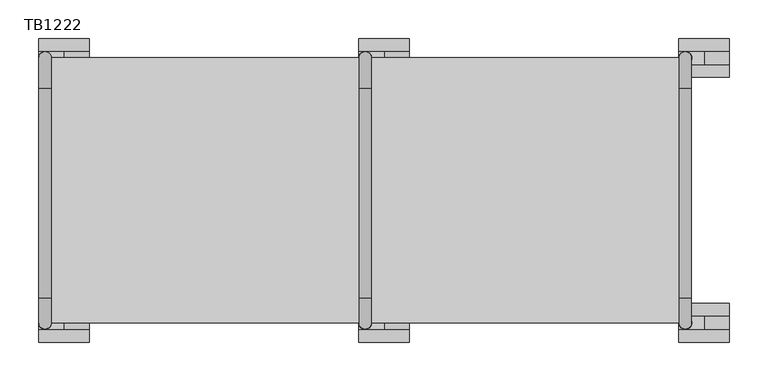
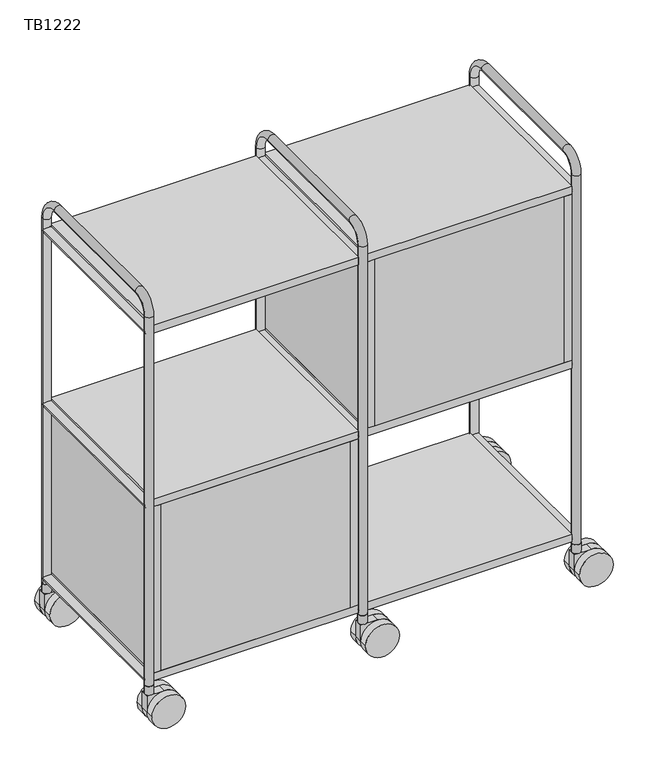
"""IFC4 building model written with IfcOpenShell, lengths in millimetres: furniture geometry, Tubbe Bookcase_Mobile Modular Bookcase : TB1222."""

import ifcopenshell
import ifcopenshell.guid

model = None  # the IFC model being written
_history = None  # IfcOwnerHistory: only IFC2X3 demands one
_inside = {}  # id of a spatial element -> (the spatial element, [elements in it])
_under = {}  # id of a project, library or spatial element -> (it, [spatial elements below it])
_declared = {}  # id of a project -> (the project, [libraries it declares])
_typed = {}  # id of a type object -> (the type object, [elements of that type])
_made_of = {}  # id of a material, layer set ... -> (it, [elements and type objects made of it])


def new_model(schema):
    """Start an empty IFC model of exactly this schema.

    Asked for "IFC4X3", IfcOpenShell would pick the latest addendum, in which some entities
    have other attributes; the version numbers below select the first issue.
    IFC2X3 requires an IfcOwnerHistory on every rooted entity: one is made here for all.
    """
    global model, _history
    if schema == "IFC4X3":
        model = ifcopenshell.file(schema_version=(4, 3, 0, 0))
    else:
        model = ifcopenshell.file(schema=schema)
    _inside.clear()
    _under.clear()
    _declared.clear()
    _typed.clear()
    _made_of.clear()
    _history = None
    if model.schema == "IFC2X3":
        org = make("IfcOrganization", Name="unknown")
        user = make(
            "IfcPersonAndOrganization",
            ThePerson=make("IfcPerson", FamilyName="unknown"),
            TheOrganization=org,
        )
        app = make(
            "IfcApplication",
            ApplicationDeveloper=org,
            Version="unknown",
            ApplicationFullName="unknown",
            ApplicationIdentifier="unknown",
        )
        _history = make(
            "IfcOwnerHistory",
            OwningUser=user,
            OwningApplication=app,
            ChangeAction="ADDED",
            CreationDate=0,
        )
    return model


def make(cls, **values):
    """One entity of the class cls with the attributes given. An attribute that is None is left unset."""
    return model.create_entity(
        cls, **{name: value for name, value in values.items() if value is not None}
    )


def rooted(cls, **values):
    """An entity with a GlobalId (a new one), such as an element, a storey or a relation."""
    return make(cls, GlobalId=ifcopenshell.guid.new(), OwnerHistory=_history, **values)


def si_unit(unit_type, name, prefix=None):
    """IfcSIUnit, for example si_unit("LENGTHUNIT", "METRE", prefix="MILLI")."""
    return make("IfcSIUnit", UnitType=unit_type, Prefix=prefix, Name=name)


def assignment(units):
    """IfcUnitAssignment: the units of a project."""
    return None if units is None else make("IfcUnitAssignment", Units=units)


def point(xyz):
    """IfcCartesianPoint."""
    return None if xyz is None else make("IfcCartesianPoint", Coordinates=xyz)


def direction(xyz):
    """IfcDirection."""
    return None if xyz is None else make("IfcDirection", DirectionRatios=xyz)


def frame(location, z_axis=None, x_axis=None):
    """IfcAxis2Placement3D, a coordinate frame: its origin and axes. An axis left out is left unset."""
    return make(
        "IfcAxis2Placement3D",
        Location=point(location),
        Axis=direction(z_axis),
        RefDirection=direction(x_axis),
    )


def frame_2d(location, x_axis=None):
    """IfcAxis2Placement2D, a coordinate frame in the plane: its origin and x axis."""
    return make(
        "IfcAxis2Placement2D", Location=point(location), RefDirection=direction(x_axis)
    )


def origin():
    """The frame at (0, 0, 0) with its axes left unset."""
    return frame((0.0, 0.0, 0.0))


def place(relative_to, where):
    """IfcLocalPlacement: puts the frame where relative to a parent placement (None: the world)."""
    return make(
        "IfcLocalPlacement", PlacementRelTo=relative_to, RelativePlacement=where
    )


def context(
    kind, dimensions, precision=None, world=None, true_north=None, identifier=None
):
    """IfcGeometricRepresentationContext, for example the 3D "Model" context."""
    return make(
        "IfcGeometricRepresentationContext",
        ContextIdentifier=identifier,
        ContextType=kind,
        CoordinateSpaceDimension=dimensions,
        Precision=precision,
        WorldCoordinateSystem=world,
        TrueNorth=true_north,
    )


def project(units=None, contexts=None):
    """IfcProject with its units and contexts."""
    return rooted(
        "IfcProject",
        Name="project",
        RepresentationContexts=contexts,
        UnitsInContext=assignment(units),
    )


def spatial(cls, under=None, at=None, **own):
    """A site, building, storey or space (cls), placed at a placement, below another one or the project."""
    s = rooted(cls, ObjectPlacement=at, **own)
    if under is not None:
        _under.setdefault(under.id(), (under, []))[1].append(s)
    return s


def polyline(points):
    """IfcPolyline through the points."""
    return make("IfcPolyline", Points=[point(p) for p in points])


def circle_curve(where, radius):
    """IfcCircle in the frame where."""
    return make("IfcCircle", Position=where, Radius=radius)


def ellipse_curve(where, semi_axis1, semi_axis2):
    """IfcEllipse in the frame where."""
    return make(
        "IfcEllipse", Position=where, SemiAxis1=semi_axis1, SemiAxis2=semi_axis2
    )


def trimmed(basis, trim1, trim2, sense, master):
    """IfcTrimmedCurve: the piece of a basis curve between two trims."""
    return make(
        "IfcTrimmedCurve",
        BasisCurve=basis,
        Trim1=trim1,
        Trim2=trim2,
        SenseAgreement=sense,
        MasterRepresentation=master,
    )


def segment(curve, same_sense, transition):
    """IfcCompositeCurveSegment."""
    return make(
        "IfcCompositeCurveSegment",
        Transition=transition,
        SameSense=same_sense,
        ParentCurve=curve,
    )


def composite_curve(segments, self_intersect=None):
    """IfcCompositeCurve: segments joined end to end."""
    return make("IfcCompositeCurve", Segments=segments, SelfIntersect=self_intersect)


def outline(outer, holes=None, kind="AREA"):
    """IfcArbitraryClosedProfileDef: a profile drawn as a closed curve; with holes, ...WithVoids."""
    if holes is None:
        return make("IfcArbitraryClosedProfileDef", ProfileType=kind, OuterCurve=outer)
    return make(
        "IfcArbitraryProfileDefWithVoids",
        ProfileType=kind,
        OuterCurve=outer,
        InnerCurves=holes,
    )


def extrude(swept, where, along, depth):
    """IfcExtrudedAreaSolid: the profile swept, set in the frame where, extruded along a direction by depth."""
    return make(
        "IfcExtrudedAreaSolid",
        SweptArea=swept,
        Position=where,
        ExtrudedDirection=direction(along),
        Depth=depth,
    )


def shape(context_of_items, identifier, shape_type, items):
    """IfcShapeRepresentation: the items that make up one representation, for example the "Body"."""
    return make(
        "IfcShapeRepresentation",
        ContextOfItems=context_of_items,
        RepresentationIdentifier=identifier,
        RepresentationType=shape_type,
        Items=items,
    )


def source(mapping_origin, context_of_items, identifier, shape_type, items):
    """IfcRepresentationMap: a shape defined once, which mapped items show again and again."""
    return make(
        "IfcRepresentationMap",
        MappingOrigin=mapping_origin,
        MappedRepresentation=shape(context_of_items, identifier, shape_type, items),
    )


def transform(
    local_origin,
    x_axis=None,
    y_axis=None,
    z_axis=None,
    scale=None,
    scale2=None,
    scale3=None,
    uniform=True,
):
    """IfcCartesianTransformationOperator3D, or its non-uniform kind. x_axis, y_axis, z_axis: its Axis1, 2, 3."""
    if uniform:
        return make(
            "IfcCartesianTransformationOperator3D",
            Axis1=direction(x_axis),
            Axis2=direction(y_axis),
            LocalOrigin=point(local_origin),
            Scale=scale,
            Axis3=direction(z_axis),
        )
    return make(
        "IfcCartesianTransformationOperator3DnonUniform",
        Axis1=direction(x_axis),
        Axis2=direction(y_axis),
        LocalOrigin=point(local_origin),
        Scale=scale,
        Axis3=direction(z_axis),
        Scale2=scale2,
        Scale3=scale3,
    )


def mapped(mapping_source, mapping_target):
    """IfcMappedItem: shows the shape of a source again, moved by a transform."""
    return make(
        "IfcMappedItem", MappingSource=mapping_source, MappingTarget=mapping_target
    )


def made_of(thing, what):
    """Note that an element or type object is made of a material, layer set ...; save() writes the relation."""
    if what is not None:
        _made_of.setdefault(what.id(), (what, []))[1].append(thing)
    return thing


def element(
    cls,
    number,
    at=None,
    inside=None,
    cuts=None,
    type_object=None,
    material=None,
    context=None,
    identifier="Body",
    shape_type=None,
    held_by="IfcProductDefinitionShape",
    body=None,
    shapes=None,
    **own,
):
    """One element of the class cls, such as IfcWall. Its Tag is "e" and its number.

    at: its placement. inside: the storey or other place that contains it. cuts: it is an
    opening in that element (IfcRelVoidsElement). A single representation is given by context,
    identifier, shape_type and body (its items); several are given by shapes. held_by: the class
    of the entity that holds the representations. save() writes the other relations.
    """
    e = rooted(cls, Tag="e%d" % number, ObjectPlacement=at, **own)
    if body is not None:
        shapes = [shape(context, identifier, shape_type, body)]
    if shapes is not None:
        e.Representation = make(held_by, Representations=shapes)
    if inside is not None:
        _inside.setdefault(inside.id(), (inside, []))[1].append(e)
    if cuts is not None:
        rooted(
            "IfcRelVoidsElement", RelatingBuildingElement=cuts, RelatedOpeningElement=e
        )
    if type_object is not None:
        _typed.setdefault(type_object.id(), (type_object, []))[1].append(e)
    return made_of(e, material)


def aggregate(whole, parts):
    """IfcRelAggregates: a whole, such as a stair, and the parts it consists of."""
    return rooted("IfcRelAggregates", RelatingObject=whole, RelatedObjects=parts)


def save(model, path):
    """Write the relations noted so far, then the file.

    IfcRelAggregates (storeys below a building ...), IfcRelContainedInSpatialStructure (elements
    in a storey), IfcRelDefinesByType, IfcRelAssociatesMaterial and IfcRelDeclares: one each for
    every whole, place, type object, material and project.
    """
    for whole, parts in _under.values():
        aggregate(whole, parts)
    for where, things in _inside.values():
        rooted(
            "IfcRelContainedInSpatialStructure",
            RelatedElements=things,
            RelatingStructure=where,
        )
    for kind, things in _typed.values():
        rooted("IfcRelDefinesByType", RelatedObjects=things, RelatingType=kind)
    for what, things in _made_of.values():
        rooted("IfcRelAssociatesMaterial", RelatedObjects=things, RelatingMaterial=what)
    for by, libraries in _declared.values():
        rooted("IfcRelDeclares", RelatingContext=by, RelatedDefinitions=libraries)
    model.write(path)


def plane_surface(at):
    """IfcPlane: the flat surface through the origin of the frame at, square to its z axis."""
    return make("IfcPlane", Position=at)


def cylinder_surface(at, radius):
    """IfcCylindricalSurface: all points at the distance radius from the z axis of the frame at."""
    return make("IfcCylindricalSurface", Position=at, Radius=radius)


def revolved_surface(curve, axis_point, axis_direction):
    """IfcSurfaceOfRevolution: the curve turned about the line through axis_point along axis_direction."""
    return make(
        "IfcSurfaceOfRevolution",
        SweptCurve=make("IfcArbitraryOpenProfileDef", ProfileType="CURVE", Curve=curve),
        AxisPosition=make("IfcAxis1Placement", Location=point(axis_point), Axis=direction(axis_direction)),
    )


def advanced_brep(points, edges, surfaces, faces):
    """IfcAdvancedBrep: a solid bounded by faces that lie on surfaces and meet in shared edges.

    An edge is (start, end): straight between two places in points (the first is 0);
    or (start, end, curve); or (start, end, curve, False) where it runs against its curve.
    A face is (place in surfaces, loops), or (place, loops, False) where it looks against
    its surface's normal. A loop lists edges by number (the first is 1), with a minus sign
    where the edge is run from its end to its start. The first loop is the outer one.
    """
    corners = [point(p) for p in points]
    vertices = [make("IfcVertexPoint", VertexGeometry=c) for c in corners]
    made = []
    for start, end, *more in edges:
        made.append(
            make(
                "IfcEdgeCurve",
                EdgeStart=vertices[start],
                EdgeEnd=vertices[end],
                EdgeGeometry=more[0] if more else make("IfcPolyline", Points=[corners[start], corners[end]]),
                SameSense=more[1] if len(more) > 1 else True,
            )
        )
    hull = []
    for where, loops, *sense in faces:
        bounds = []
        for j, loop in enumerate(loops):
            ring = [make("IfcOrientedEdge", EdgeElement=made[abs(k) - 1], Orientation=k > 0) for k in loop]
            bounds.append(
                make(
                    "IfcFaceOuterBound" if j == 0 else "IfcFaceBound",
                    Bound=make("IfcEdgeLoop", EdgeList=ring),
                    Orientation=True,
                )
            )
        hull.append(make("IfcAdvancedFace", Bounds=bounds, FaceSurface=surfaces[where], SameSense=sense[0] if sense else True))
    return make("IfcAdvancedBrep", Outer=make("IfcClosedShell", CfsFaces=hull))


def tb1222_59ea8ce8(model_context):
    return source(origin(), model_context, "Body", "SolidModel", [
        extrude(outline(polyline([(390.0, -171.5), (24.0, -171.5), (24.0, -155.5), (390.0, -155.5), (390.0, -171.5)])), frame((0.0, 0.0, 458.0), z_axis=(0.0, 0.0, 1.0), x_axis=(1.0, 0.0, 0.0)), (0.0, 0.0, 1.0), 340.0),
        extrude(outline(polyline([(390.0, 155.5), (24.0, 155.5), (24.0, 171.5), (390.0, 171.5), (390.0, 155.5)])), frame((0.0, 0.0, 458.0), z_axis=(0.0, 0.0, 1.0), x_axis=(1.0, 0.0, 0.0)), (0.0, 0.0, 1.0), 340.0),
        extrude(outline(polyline([(406.0, 171.5), (406.0, -171.5), (390.0, -171.5), (390.0, 171.5), (406.0, 171.5)])), frame((0.0, 0.0, 458.0), z_axis=(0.0, 0.0, 1.0), x_axis=(1.0, 0.0, 0.0)), (0.0, 0.0, 1.0), 340.0),
        extrude(outline(polyline([(24.0, 171.5), (24.0, -171.5), (8.0, -171.5), (8.0, 171.5), (24.0, 171.5)])), frame((0.0, 0.0, 458.0), z_axis=(0.0, 0.0, 1.0), x_axis=(1.0, 0.0, 0.0)), (0.0, 0.0, 1.0), 340.0),
        extrude(outline(polyline([(-24.0, -171.5), (-390.0, -171.5), (-390.0, -155.5), (-24.0, -155.5), (-24.0, -171.5)])), frame((0.0, 0.0, 102.0), z_axis=(0.0, 0.0, 1.0), x_axis=(1.0, 0.0, 0.0)), (0.0, 0.0, 1.0), 340.0),
        extrude(outline(polyline([(-24.0, 155.5), (-390.0, 155.5), (-390.0, 171.5), (-24.0, 171.5), (-24.0, 155.5)])), frame((0.0, 0.0, 102.0), z_axis=(0.0, 0.0, 1.0), x_axis=(1.0, 0.0, 0.0)), (0.0, 0.0, 1.0), 340.0),
        extrude(outline(polyline([(-8.0, 171.5), (-8.0, -171.5), (-24.0, -171.5), (-24.0, 171.5), (-8.0, 171.5)])), frame((0.0, 0.0, 102.0), z_axis=(0.0, 0.0, 1.0), x_axis=(1.0, 0.0, 0.0)), (0.0, 0.0, 1.0), 340.0),
        extrude(outline(polyline([(-390.0, 171.5), (-390.0, -171.5), (-406.0, -171.5), (-406.0, 171.5), (-390.0, 171.5)])), frame((0.0, 0.0, 102.0), z_axis=(0.0, 0.0, 1.0), x_axis=(1.0, 0.0, 0.0)), (0.0, 0.0, 1.0), 340.0),
        extrude(outline(polyline([(406.0, 171.5), (406.0, -171.5), (8.0, -171.5), (8.0, 171.5), (406.0, 171.5)])), frame((0.0, 0.0, 798.0), z_axis=(0.0, 0.0, 1.0), x_axis=(1.0, 0.0, 0.0)), (0.0, 0.0, 1.0), 16.0),
        extrude(outline(polyline([(406.0, 171.5), (406.0, -171.5), (8.0, -171.5), (8.0, 171.5), (406.0, 171.5)])), frame((0.0, 0.0, 442.0), z_axis=(0.0, 0.0, 1.0), x_axis=(1.0, 0.0, 0.0)), (0.0, 0.0, 1.0), 16.0),
        extrude(outline(polyline([(-8.0, 171.5), (-8.0, -171.5), (-406.0, -171.5), (-406.0, 171.5), (-8.0, 171.5)])), frame((0.0, 0.0, 442.0), z_axis=(0.0, 0.0, 1.0), x_axis=(1.0, 0.0, 0.0)), (0.0, 0.0, 1.0), 16.0),
        extrude(outline(polyline([(-8.0, 171.5), (-8.0, -171.5), (-406.0, -171.5), (-406.0, 171.5), (-8.0, 171.5)])), frame((0.0, 0.0, 86.0), z_axis=(0.0, 0.0, 1.0), x_axis=(1.0, 0.0, 0.0)), (0.0, 0.0, 1.0), 16.0),
        extrude(outline(polyline([(406.0, 171.5), (406.0, -171.5), (8.0, -171.5), (8.0, 171.5), (406.0, 171.5)])), frame((0.0, 0.0, 86.0), z_axis=(0.0, 0.0, 1.0), x_axis=(1.0, 0.0, 0.0)), (0.0, 0.0, 1.0), 16.0),
        extrude(outline(polyline([(-8.0, 171.5), (-8.0, -171.5), (-406.0, -171.5), (-406.0, 171.5), (-8.0, 171.5)])), frame((0.0, 0.0, 798.0), z_axis=(0.0, 0.0, 1.0), x_axis=(1.0, 0.0, 0.0)), (0.0, 0.0, 1.0), 16.0),
        extrude(outline(composite_curve([segment(trimmed(circle_curve(frame_2d((414.0, -171.5)), 8.3333333), [point((405.6666667, -171.5))], [point((422.3333333, -171.5))], False, "CARTESIAN"), True, "CONTINUOUS"), segment(trimmed(circle_curve(frame_2d((414.0, -171.5)), 8.3333333), [point((422.3333333, -171.5))], [point((405.6666667, -171.5))], False, "CARTESIAN"), True, "CONTINUOUS")], self_intersect=False)), frame((0.0, 0.0, 65.3), z_axis=(0.0, 0.0, 1.0), x_axis=(1.0, 0.0, 0.0)), (0.0, 0.0, 1.0), 17.6),
        extrude(outline(composite_curve([segment(polyline([(65.3, 438.32), (65.3, 405.67), (32.65, 405.67), (32.65, 470.97)]), True, "CONTINUOUS"), segment(trimmed(circle_curve(frame_2d((32.65, 438.32)), 32.65), [point((32.65, 470.97))], [point((65.3, 438.32))], False, "CARTESIAN"), True, "CONTINUOUS")], self_intersect=False)), frame((0.0, -179.8333333, 0.0), z_axis=(0.0, 1.0, 0.0), x_axis=(0.0, 0.0, 1.0)), (0.0, 0.0, 1.0), 16.6666667),
        extrude(outline(composite_curve([segment(trimmed(circle_curve(frame_2d((32.65, 438.32)), 32.65), [point((32.65, 405.67))], [point((32.65, 470.97))], False, "CARTESIAN"), True, "CONTINUOUS"), segment(trimmed(circle_curve(frame_2d((32.65, 438.32)), 32.65), [point((32.65, 470.97))], [point((32.65, 405.67))], False, "CARTESIAN"), True, "CONTINUOUS")], self_intersect=False)), frame((0.0, -163.1666667, 0.0), z_axis=(0.0, 1.0, 0.0), x_axis=(0.0, 0.0, 1.0)), (0.0, 0.0, 1.0), 16.6666667),
        extrude(outline(composite_curve([segment(trimmed(circle_curve(frame_2d((32.65, 438.32)), 32.65), [point((32.65, 405.67))], [point((32.65, 470.97))], False, "CARTESIAN"), True, "CONTINUOUS"), segment(trimmed(circle_curve(frame_2d((32.65, 438.32)), 32.65), [point((32.65, 470.97))], [point((32.65, 405.67))], False, "CARTESIAN"), True, "CONTINUOUS")], self_intersect=False)), frame((0.0, -196.5, 0.0), z_axis=(0.0, 1.0, 0.0), x_axis=(0.0, 0.0, 1.0)), (0.0, 0.0, 1.0), 16.6666667),
        extrude(outline(composite_curve([segment(trimmed(circle_curve(frame_2d((414.0, 171.5)), 8.3333333), [point((405.6666667, 171.5))], [point((422.3333333, 171.5))], False, "CARTESIAN"), True, "CONTINUOUS"), segment(trimmed(circle_curve(frame_2d((414.0, 171.5)), 8.3333333), [point((422.3333333, 171.5))], [point((405.6666667, 171.5))], False, "CARTESIAN"), True, "CONTINUOUS")], self_intersect=False)), frame((0.0, 0.0, 65.3), z_axis=(0.0, 0.0, 1.0), x_axis=(1.0, 0.0, 0.0)), (0.0, 0.0, 1.0), 17.6),
        extrude(outline(composite_curve([segment(polyline([(65.3, 438.32), (65.3, 405.67), (32.65, 405.67), (32.65, 470.97)]), True, "CONTINUOUS"), segment(trimmed(circle_curve(frame_2d((32.65, 438.32)), 32.65), [point((32.65, 470.97))], [point((65.3, 438.32))], False, "CARTESIAN"), True, "CONTINUOUS")], self_intersect=False)), frame((0.0, 163.1666667, 0.0), z_axis=(0.0, 1.0, 0.0), x_axis=(0.0, 0.0, 1.0)), (0.0, 0.0, 1.0), 16.6666667),
        extrude(outline(composite_curve([segment(trimmed(circle_curve(frame_2d((32.65, 438.32)), 32.65), [point((32.65, 405.67))], [point((32.65, 470.97))], False, "CARTESIAN"), True, "CONTINUOUS"), segment(trimmed(circle_curve(frame_2d((32.65, 438.32)), 32.65), [point((32.65, 470.97))], [point((32.65, 405.67))], False, "CARTESIAN"), True, "CONTINUOUS")], self_intersect=False)), frame((0.0, 179.8333333, 0.0), z_axis=(0.0, 1.0, 0.0), x_axis=(0.0, 0.0, 1.0)), (0.0, 0.0, 1.0), 16.6666667),
        extrude(outline(composite_curve([segment(trimmed(circle_curve(frame_2d((32.65, 438.32)), 32.65), [point((32.65, 405.67))], [point((32.65, 470.97))], False, "CARTESIAN"), True, "CONTINUOUS"), segment(trimmed(circle_curve(frame_2d((32.65, 438.32)), 32.65), [point((32.65, 470.97))], [point((32.65, 405.67))], False, "CARTESIAN"), True, "CONTINUOUS")], self_intersect=False)), frame((0.0, 146.5, 0.0), z_axis=(0.0, 1.0, 0.0), x_axis=(0.0, 0.0, 1.0)), (0.0, 0.0, 1.0), 16.6666667),
        extrude(outline(composite_curve([segment(trimmed(circle_curve(frame_2d((806.0, 414.0)), 8.0), [point((806.0, 406.0))], [point((806.0, 422.0))], False, "CARTESIAN"), True, "CONTINUOUS"), segment(trimmed(circle_curve(frame_2d((806.0, 414.0)), 8.0), [point((806.0, 422.0))], [point((806.0, 406.0))], False, "CARTESIAN"), True, "CONTINUOUS")], self_intersect=False)), frame((0.0, -171.5, 0.0), z_axis=(0.0, 1.0, 0.0), x_axis=(0.0, 0.0, 1.0)), (0.0, 0.0, 1.0), 343.0),
        extrude(outline(composite_curve([segment(trimmed(circle_curve(frame_2d((450.0, 414.0)), 8.0), [point((450.0, 406.0))], [point((450.0, 422.0))], False, "CARTESIAN"), True, "CONTINUOUS"), segment(trimmed(circle_curve(frame_2d((450.0, 414.0)), 8.0), [point((450.0, 422.0))], [point((450.0, 406.0))], False, "CARTESIAN"), True, "CONTINUOUS")], self_intersect=False)), frame((0.0, -171.5, 0.0), z_axis=(0.0, 1.0, 0.0), x_axis=(0.0, 0.0, 1.0)), (0.0, 0.0, 1.0), 343.0),
        extrude(outline(composite_curve([segment(trimmed(circle_curve(frame_2d((94.0, 414.0)), 8.0), [point((94.0, 406.0))], [point((94.0, 422.0))], False, "CARTESIAN"), True, "CONTINUOUS"), segment(trimmed(circle_curve(frame_2d((94.0, 414.0)), 8.0), [point((94.0, 422.0))], [point((94.0, 406.0))], False, "CARTESIAN"), True, "CONTINUOUS")], self_intersect=False)), frame((0.0, -171.5, 0.0), z_axis=(0.0, 1.0, 0.0), x_axis=(0.0, 0.0, 1.0)), (0.0, 0.0, 1.0), 343.0),
        advanced_brep(
        [(406.0, 171.5, 82.9), (422.0, 171.5, 82.9), (406.0, 171.5, 830.0), (422.0, 171.5, 830.0), (422.0, 131.5, 870.0), (406.0, 131.5, 870.0), (406.0, -139.5, 870.0), (422.0, -139.5, 870.0), (422.0, -171.5, 838.0), (406.0, -171.5, 838.0), (406.0, -171.5, 82.9), (422.0, -171.5, 82.9)],
        [
            (0, 1, circle_curve(frame((414.0, 171.5, 82.9), z_axis=(0.0, 0.0, -1.0), x_axis=(1.0, 0.0, 0.0)), 8.0)),
            (1, 0, circle_curve(frame((414.0, 171.5, 82.9), z_axis=(0.0, 0.0, -1.0), x_axis=(1.0, 0.0, 0.0)), 8.0)),
            (0, 2),
            (2, 3, circle_curve(frame((414.0, 171.5, 830.0), z_axis=(0.0, 0.0, -1.0), x_axis=(1.0, 0.0, 0.0)), 8.0)),
            (3, 1),
            (3, 2, circle_curve(frame((414.0, 171.5, 830.0), z_axis=(0.0, 0.0, -1.0), x_axis=(1.0, 0.0, 0.0)), 8.0)),
            (4, 5, circle_curve(frame((414.0, 131.5, 870.0), z_axis=(0.0, -1.0, 0.0), x_axis=(1.0, 0.0, 0.0)), 8.0)),
            (5, 6),
            (6, 7, circle_curve(frame((414.0, -139.5, 870.0), z_axis=(0.0, 1.0, 0.0), x_axis=(1.0, 0.0, 0.0)), 8.0)),
            (7, 4),
            (5, 4, circle_curve(frame((414.0, 131.5, 870.0), z_axis=(0.0, -1.0, 0.0), x_axis=(1.0, 0.0, 0.0)), 8.0)),
            (7, 6, circle_curve(frame((414.0, -139.5, 870.0), z_axis=(0.0, 1.0, 0.0), x_axis=(1.0, 0.0, 0.0)), 8.0)),
            (8, 7, circle_curve(frame((422.0, -139.5, 838.0), z_axis=(-1.0, 0.0, 0.0), x_axis=(0.0, 0.0, 1.0)), 32.0)),
            (6, 9, circle_curve(frame((406.0, -139.5, 838.0), z_axis=(1.0, 0.0, 0.0), x_axis=(0.0, 0.0, 1.0)), 32.0)),
            (9, 8, circle_curve(frame((414.0, -171.5, 838.0), z_axis=(0.0, 0.0, 1.0), x_axis=(1.0, 0.0, 0.0)), 8.0)),
            (8, 9, circle_curve(frame((414.0, -171.5, 838.0), z_axis=(0.0, 0.0, 1.0), x_axis=(1.0, 0.0, 0.0)), 8.0)),
            (10, 11, circle_curve(frame((414.0, -171.5, 82.9), z_axis=(0.0, 0.0, -1.0), x_axis=(1.0, 0.0, 0.0)), 8.0)),
            (11, 10, circle_curve(frame((414.0, -171.5, 82.9), z_axis=(0.0, 0.0, -1.0), x_axis=(1.0, 0.0, 0.0)), 8.0)),
            (9, 10),
            (11, 8),
            (4, 3, circle_curve(frame((422.0, 131.5, 830.0), z_axis=(-1.0, 0.0, 0.0), x_axis=(0.0, 1.0, 0.0)), 40.0)),
            (2, 5, circle_curve(frame((406.0, 131.5, 830.0), z_axis=(1.0, 0.0, 0.0), x_axis=(0.0, 1.0, 0.0)), 40.0)),
        ],
        [
            plane_surface(frame((414.0, 171.5, 82.9), z_axis=(0.0, 0.0, -1.0), x_axis=(1.0, 0.0, 0.0))),
            cylinder_surface(frame((414.0, 171.5, 82.9), z_axis=(0.0, 0.0, -1.0), x_axis=(1.0, 0.0, 0.0)), 8.0),
            cylinder_surface(frame((414.0, 131.5, 870.0), z_axis=(0.0, 1.0, 0.0), x_axis=(1.0, 0.0, 0.0)), 8.0),
            revolved_surface(trimmed(ellipse_curve(frame((414.0, -139.5, 870.0), z_axis=(0.0, 1.0, 0.0), x_axis=(1.0, 0.0, 0.0)), 8.0, 8.0), [point((406.0, -139.5, 870.0))], [point((422.0, -139.5, 870.0))], True, "CARTESIAN"), (414.0, -139.5, 838.0), (1.0, 0.0, 0.0)),
            revolved_surface(trimmed(ellipse_curve(frame((414.0, -139.5, 870.0), z_axis=(0.0, 1.0, 0.0), x_axis=(1.0, 0.0, 0.0)), 8.0, 8.0), [point((422.0, -139.5, 870.0))], [point((406.0, -139.5, 870.0))], True, "CARTESIAN"), (414.0, -139.5, 838.0), (1.0, 0.0, 0.0)),
            plane_surface(frame((414.0, -171.5, 82.9), z_axis=(0.0, 0.0, -1.0), x_axis=(1.0, 0.0, 0.0))),
            cylinder_surface(frame((414.0, -171.5, 838.0), z_axis=(0.0, 0.0, 1.0), x_axis=(1.0, 0.0, 0.0)), 8.0),
            revolved_surface(trimmed(ellipse_curve(frame((414.0, 171.5, 830.0), z_axis=(0.0, 0.0, -1.0), x_axis=(1.0, 0.0, 0.0)), 8.0, 8.0), [point((406.0, 171.5, 830.0))], [point((422.0, 171.5, 830.0))], True, "CARTESIAN"), (414.0, 131.5, 830.0), (1.0, 0.0, 0.0)),
            revolved_surface(trimmed(ellipse_curve(frame((414.0, 171.5, 830.0), z_axis=(0.0, 0.0, -1.0), x_axis=(1.0, 0.0, 0.0)), 8.0, 8.0), [point((422.0, 171.5, 830.0))], [point((406.0, 171.5, 830.0))], True, "CARTESIAN"), (414.0, 131.5, 830.0), (1.0, 0.0, 0.0)),
        ],
        [
            (0, [[1, 2]]),
            (1, [[-1, 3, 4, 5]]),
            (1, [[-2, -5, 6, -3]]),
            (2, [[7, 8, 9, 10]]),
            (2, [[11, -10, 12, -8]]),
            (3, [[13, -9, 14, 15]]),
            (4, [[-14, -12, -13, 16]]),
            (5, [[17, 18]]),
            (6, [[-15, 19, -18, 20]]),
            (6, [[-16, -20, -17, -19]]),
            (7, [[21, -4, 22, -7]]),
            (8, [[-22, -6, -21, -11]]),
        ],
    ),
        extrude(outline(composite_curve([segment(trimmed(circle_curve(frame_2d((0.0, -171.5)), 8.3333333), [point((-8.3333333, -171.5))], [point((8.3333333, -171.5))], False, "CARTESIAN"), True, "CONTINUOUS"), segment(trimmed(circle_curve(frame_2d((0.0, -171.5)), 8.3333333), [point((8.3333333, -171.5))], [point((-8.3333333, -171.5))], False, "CARTESIAN"), True, "CONTINUOUS")], self_intersect=False)), frame((0.0, 0.0, 65.3), z_axis=(0.0, 0.0, 1.0), x_axis=(1.0, 0.0, 0.0)), (0.0, 0.0, 1.0), 17.6),
        extrude(outline(composite_curve([segment(polyline([(65.3, 24.32), (65.3, -8.33), (32.65, -8.33), (32.65, 56.97)]), True, "CONTINUOUS"), segment(trimmed(circle_curve(frame_2d((32.65, 24.32)), 32.65), [point((32.65, 56.97))], [point((65.3, 24.32))], False, "CARTESIAN"), True, "CONTINUOUS")], self_intersect=False)), frame((0.0, -179.8333333, 0.0), z_axis=(0.0, 1.0, 0.0), x_axis=(0.0, 0.0, 1.0)), (0.0, 0.0, 1.0), 16.6666667),
        extrude(outline(composite_curve([segment(trimmed(circle_curve(frame_2d((32.65, 24.32)), 32.65), [point((32.65, -8.33))], [point((32.65, 56.97))], False, "CARTESIAN"), True, "CONTINUOUS"), segment(trimmed(circle_curve(frame_2d((32.65, 24.32)), 32.65), [point((32.65, 56.97))], [point((32.65, -8.33))], False, "CARTESIAN"), True, "CONTINUOUS")], self_intersect=False)), frame((0.0, -163.1666667, 0.0), z_axis=(0.0, 1.0, 0.0), x_axis=(0.0, 0.0, 1.0)), (0.0, 0.0, 1.0), 16.6666667),
        extrude(outline(composite_curve([segment(trimmed(circle_curve(frame_2d((32.65, 24.32)), 32.65), [point((32.65, -8.33))], [point((32.65, 56.97))], False, "CARTESIAN"), True, "CONTINUOUS"), segment(trimmed(circle_curve(frame_2d((32.65, 24.32)), 32.65), [point((32.65, 56.97))], [point((32.65, -8.33))], False, "CARTESIAN"), True, "CONTINUOUS")], self_intersect=False)), frame((0.0, -196.5, 0.0), z_axis=(0.0, 1.0, 0.0), x_axis=(0.0, 0.0, 1.0)), (0.0, 0.0, 1.0), 16.6666667),
        extrude(outline(composite_curve([segment(trimmed(circle_curve(frame_2d((0.0, 171.5)), 8.3333333), [point((-8.3333333, 171.5))], [point((8.3333333, 171.5))], False, "CARTESIAN"), True, "CONTINUOUS"), segment(trimmed(circle_curve(frame_2d((0.0, 171.5)), 8.3333333), [point((8.3333333, 171.5))], [point((-8.3333333, 171.5))], False, "CARTESIAN"), True, "CONTINUOUS")], self_intersect=False)), frame((0.0, 0.0, 65.3), z_axis=(0.0, 0.0, 1.0), x_axis=(1.0, 0.0, 0.0)), (0.0, 0.0, 1.0), 17.6),
        extrude(outline(composite_curve([segment(polyline([(65.3, 24.32), (65.3, -8.33), (32.65, -8.33), (32.65, 56.97)]), True, "CONTINUOUS"), segment(trimmed(circle_curve(frame_2d((32.65, 24.32)), 32.65), [point((32.65, 56.97))], [point((65.3, 24.32))], False, "CARTESIAN"), True, "CONTINUOUS")], self_intersect=False)), frame((0.0, 163.1666667, 0.0), z_axis=(0.0, 1.0, 0.0), x_axis=(0.0, 0.0, 1.0)), (0.0, 0.0, 1.0), 16.6666667),
        extrude(outline(composite_curve([segment(trimmed(circle_curve(frame_2d((32.65, 24.32)), 32.65), [point((32.65, -8.33))], [point((32.65, 56.97))], False, "CARTESIAN"), True, "CONTINUOUS"), segment(trimmed(circle_curve(frame_2d((32.65, 24.32)), 32.65), [point((32.65, 56.97))], [point((32.65, -8.33))], False, "CARTESIAN"), True, "CONTINUOUS")], self_intersect=False)), frame((0.0, 179.8333333, 0.0), z_axis=(0.0, 1.0, 0.0), x_axis=(0.0, 0.0, 1.0)), (0.0, 0.0, 1.0), 16.6666667),
        extrude(outline(composite_curve([segment(trimmed(circle_curve(frame_2d((32.65, 24.32)), 32.65), [point((32.65, -8.33))], [point((32.65, 56.97))], False, "CARTESIAN"), True, "CONTINUOUS"), segment(trimmed(circle_curve(frame_2d((32.65, 24.32)), 32.65), [point((32.65, 56.97))], [point((32.65, -8.33))], False, "CARTESIAN"), True, "CONTINUOUS")], self_intersect=False)), frame((0.0, 146.5, 0.0), z_axis=(0.0, 1.0, 0.0), x_axis=(0.0, 0.0, 1.0)), (0.0, 0.0, 1.0), 16.6666667),
        extrude(outline(composite_curve([segment(trimmed(circle_curve(frame_2d((806.0, 0.0)), 8.0), [point((806.0, -8.0))], [point((806.0, 8.0))], False, "CARTESIAN"), True, "CONTINUOUS"), segment(trimmed(circle_curve(frame_2d((806.0, 0.0)), 8.0), [point((806.0, 8.0))], [point((806.0, -8.0))], False, "CARTESIAN"), True, "CONTINUOUS")], self_intersect=False)), frame((0.0, -171.5, 0.0), z_axis=(0.0, 1.0, 0.0), x_axis=(0.0, 0.0, 1.0)), (0.0, 0.0, 1.0), 343.0),
        extrude(outline(composite_curve([segment(trimmed(circle_curve(frame_2d((450.0, 0.0)), 8.0), [point((450.0, -8.0))], [point((450.0, 8.0))], False, "CARTESIAN"), True, "CONTINUOUS"), segment(trimmed(circle_curve(frame_2d((450.0, 0.0)), 8.0), [point((450.0, 8.0))], [point((450.0, -8.0))], False, "CARTESIAN"), True, "CONTINUOUS")], self_intersect=False)), frame((0.0, -171.5, 0.0), z_axis=(0.0, 1.0, 0.0), x_axis=(0.0, 0.0, 1.0)), (0.0, 0.0, 1.0), 343.0),
        extrude(outline(composite_curve([segment(trimmed(circle_curve(frame_2d((94.0, 0.0)), 8.0), [point((94.0, -8.0))], [point((94.0, 8.0))], False, "CARTESIAN"), True, "CONTINUOUS"), segment(trimmed(circle_curve(frame_2d((94.0, 0.0)), 8.0), [point((94.0, 8.0))], [point((94.0, -8.0))], False, "CARTESIAN"), True, "CONTINUOUS")], self_intersect=False)), frame((0.0, -171.5, 0.0), z_axis=(0.0, 1.0, 0.0), x_axis=(0.0, 0.0, 1.0)), (0.0, 0.0, 1.0), 343.0),
        advanced_brep(
        [(-8.0, 171.5, 82.9), (8.0, 171.5, 82.9), (-8.0, 171.5, 830.0), (8.0, 171.5, 830.0), (8.0, 131.5, 870.0), (-8.0, 131.5, 870.0), (-8.0, -139.5, 870.0), (8.0, -139.5, 870.0), (8.0, -171.5, 838.0), (-8.0, -171.5, 838.0), (-8.0, -171.5, 82.9), (8.0, -171.5, 82.9)],
        [
            (0, 1, circle_curve(frame((0.0, 171.5, 82.9), z_axis=(0.0, 0.0, -1.0), x_axis=(1.0, 0.0, 0.0)), 8.0)),
            (1, 0, circle_curve(frame((0.0, 171.5, 82.9), z_axis=(0.0, 0.0, -1.0), x_axis=(1.0, 0.0, 0.0)), 8.0)),
            (0, 2),
            (2, 3, circle_curve(frame((0.0, 171.5, 830.0), z_axis=(0.0, 0.0, -1.0), x_axis=(1.0, 0.0, 0.0)), 8.0)),
            (3, 1),
            (3, 2, circle_curve(frame((0.0, 171.5, 830.0), z_axis=(0.0, 0.0, -1.0), x_axis=(1.0, 0.0, 0.0)), 8.0)),
            (4, 5, circle_curve(frame((0.0, 131.5, 870.0), z_axis=(0.0, -1.0, 0.0), x_axis=(1.0, 0.0, 0.0)), 8.0)),
            (5, 6),
            (6, 7, circle_curve(frame((0.0, -139.5, 870.0), z_axis=(0.0, 1.0, 0.0), x_axis=(1.0, 0.0, 0.0)), 8.0)),
            (7, 4),
            (5, 4, circle_curve(frame((0.0, 131.5, 870.0), z_axis=(0.0, -1.0, 0.0), x_axis=(1.0, 0.0, 0.0)), 8.0)),
            (7, 6, circle_curve(frame((0.0, -139.5, 870.0), z_axis=(0.0, 1.0, 0.0), x_axis=(1.0, 0.0, 0.0)), 8.0)),
            (8, 7, circle_curve(frame((8.0, -139.5, 838.0), z_axis=(-1.0, 0.0, 0.0), x_axis=(0.0, 0.0, 1.0)), 32.0)),
            (6, 9, circle_curve(frame((-8.0, -139.5, 838.0), z_axis=(1.0, 0.0, 0.0), x_axis=(0.0, 0.0, 1.0)), 32.0)),
            (9, 8, circle_curve(frame((0.0, -171.5, 838.0), z_axis=(0.0, 0.0, 1.0), x_axis=(1.0, 0.0, 0.0)), 8.0)),
            (8, 9, circle_curve(frame((0.0, -171.5, 838.0), z_axis=(0.0, 0.0, 1.0), x_axis=(1.0, 0.0, 0.0)), 8.0)),
            (10, 11, circle_curve(frame((0.0, -171.5, 82.9), z_axis=(0.0, 0.0, -1.0), x_axis=(1.0, 0.0, 0.0)), 8.0)),
            (11, 10, circle_curve(frame((0.0, -171.5, 82.9), z_axis=(0.0, 0.0, -1.0), x_axis=(1.0, 0.0, 0.0)), 8.0)),
            (9, 10),
            (11, 8),
            (4, 3, circle_curve(frame((8.0, 131.5, 830.0), z_axis=(-1.0, 0.0, 0.0), x_axis=(0.0, 1.0, 0.0)), 40.0)),
            (2, 5, circle_curve(frame((-8.0, 131.5, 830.0), z_axis=(1.0, 0.0, 0.0), x_axis=(0.0, 1.0, 0.0)), 40.0)),
        ],
        [
            plane_surface(frame((0.0, 171.5, 82.9), z_axis=(0.0, 0.0, -1.0), x_axis=(1.0, 0.0, 0.0))),
            cylinder_surface(frame((0.0, 171.5, 82.9), z_axis=(0.0, 0.0, -1.0), x_axis=(1.0, 0.0, 0.0)), 8.0),
            cylinder_surface(frame((0.0, 131.5, 870.0), z_axis=(0.0, 1.0, 0.0), x_axis=(1.0, 0.0, 0.0)), 8.0),
            revolved_surface(trimmed(ellipse_curve(frame((0.0, -139.5, 870.0), z_axis=(0.0, 1.0, 0.0), x_axis=(1.0, 0.0, 0.0)), 8.0, 8.0), [point((-8.0, -139.5, 870.0))], [point((8.0, -139.5, 870.0))], True, "CARTESIAN"), (0.0, -139.5, 838.0), (1.0, 0.0, 0.0)),
            revolved_surface(trimmed(ellipse_curve(frame((0.0, -139.5, 870.0), z_axis=(0.0, 1.0, 0.0), x_axis=(1.0, 0.0, 0.0)), 8.0, 8.0), [point((8.0, -139.5, 870.0))], [point((-8.0, -139.5, 870.0))], True, "CARTESIAN"), (0.0, -139.5, 838.0), (1.0, 0.0, 0.0)),
            plane_surface(frame((0.0, -171.5, 82.9), z_axis=(0.0, 0.0, -1.0), x_axis=(1.0, 0.0, 0.0))),
            cylinder_surface(frame((0.0, -171.5, 838.0), z_axis=(0.0, 0.0, 1.0), x_axis=(1.0, 0.0, 0.0)), 8.0),
            revolved_surface(trimmed(ellipse_curve(frame((0.0, 171.5, 830.0), z_axis=(0.0, 0.0, -1.0), x_axis=(1.0, 0.0, 0.0)), 8.0, 8.0), [point((-8.0, 171.5, 830.0))], [point((8.0, 171.5, 830.0))], True, "CARTESIAN"), (0.0, 131.5, 830.0), (1.0, 0.0, 0.0)),
            revolved_surface(trimmed(ellipse_curve(frame((0.0, 171.5, 830.0), z_axis=(0.0, 0.0, -1.0), x_axis=(1.0, 0.0, 0.0)), 8.0, 8.0), [point((8.0, 171.5, 830.0))], [point((-8.0, 171.5, 830.0))], True, "CARTESIAN"), (0.0, 131.5, 830.0), (1.0, 0.0, 0.0)),
        ],
        [
            (0, [[1, 2]]),
            (1, [[-1, 3, 4, 5]]),
            (1, [[-2, -5, 6, -3]]),
            (2, [[7, 8, 9, 10]]),
            (2, [[11, -10, 12, -8]]),
            (3, [[13, -9, 14, 15]]),
            (4, [[-14, -12, -13, 16]]),
            (5, [[17, 18]]),
            (6, [[-15, 19, -18, 20]]),
            (6, [[-16, -20, -17, -19]]),
            (7, [[21, -4, 22, -7]]),
            (8, [[-22, -6, -21, -11]]),
        ],
    ),
        extrude(outline(composite_curve([segment(trimmed(circle_curve(frame_2d((-414.0, -171.5)), 8.3333333), [point((-422.3333333, -171.5))], [point((-405.6666667, -171.5))], False, "CARTESIAN"), True, "CONTINUOUS"), segment(trimmed(circle_curve(frame_2d((-414.0, -171.5)), 8.3333333), [point((-405.6666667, -171.5))], [point((-422.3333333, -171.5))], False, "CARTESIAN"), True, "CONTINUOUS")], self_intersect=False)), frame((0.0, 0.0, 65.3), z_axis=(0.0, 0.0, 1.0), x_axis=(1.0, 0.0, 0.0)), (0.0, 0.0, 1.0), 17.6),
        extrude(outline(composite_curve([segment(polyline([(65.3, -389.68), (65.3, -422.33), (32.65, -422.33), (32.65, -357.03)]), True, "CONTINUOUS"), segment(trimmed(circle_curve(frame_2d((32.65, -389.68)), 32.65), [point((32.65, -357.03))], [point((65.3, -389.68))], False, "CARTESIAN"), True, "CONTINUOUS")], self_intersect=False)), frame((0.0, -179.8333333, 0.0), z_axis=(0.0, 1.0, 0.0), x_axis=(0.0, 0.0, 1.0)), (0.0, 0.0, 1.0), 16.6666667),
        extrude(outline(composite_curve([segment(trimmed(circle_curve(frame_2d((32.65, -389.68)), 32.65), [point((32.65, -422.33))], [point((32.65, -357.03))], False, "CARTESIAN"), True, "CONTINUOUS"), segment(trimmed(circle_curve(frame_2d((32.65, -389.68)), 32.65), [point((32.65, -357.03))], [point((32.65, -422.33))], False, "CARTESIAN"), True, "CONTINUOUS")], self_intersect=False)), frame((0.0, -163.1666667, 0.0), z_axis=(0.0, 1.0, 0.0), x_axis=(0.0, 0.0, 1.0)), (0.0, 0.0, 1.0), 16.6666667),
        extrude(outline(composite_curve([segment(trimmed(circle_curve(frame_2d((32.65, -389.68)), 32.65), [point((32.65, -422.33))], [point((32.65, -357.03))], False, "CARTESIAN"), True, "CONTINUOUS"), segment(trimmed(circle_curve(frame_2d((32.65, -389.68)), 32.65), [point((32.65, -357.03))], [point((32.65, -422.33))], False, "CARTESIAN"), True, "CONTINUOUS")], self_intersect=False)), frame((0.0, -196.5, 0.0), z_axis=(0.0, 1.0, 0.0), x_axis=(0.0, 0.0, 1.0)), (0.0, 0.0, 1.0), 16.6666667),
        extrude(outline(composite_curve([segment(trimmed(circle_curve(frame_2d((-414.0, 171.5)), 8.3333333), [point((-422.3333333, 171.5))], [point((-405.6666667, 171.5))], False, "CARTESIAN"), True, "CONTINUOUS"), segment(trimmed(circle_curve(frame_2d((-414.0, 171.5)), 8.3333333), [point((-405.6666667, 171.5))], [point((-422.3333333, 171.5))], False, "CARTESIAN"), True, "CONTINUOUS")], self_intersect=False)), frame((0.0, 0.0, 65.3), z_axis=(0.0, 0.0, 1.0), x_axis=(1.0, 0.0, 0.0)), (0.0, 0.0, 1.0), 17.6),
        extrude(outline(composite_curve([segment(polyline([(65.3, -389.68), (65.3, -422.33), (32.65, -422.33), (32.65, -357.03)]), True, "CONTINUOUS"), segment(trimmed(circle_curve(frame_2d((32.65, -389.68)), 32.65), [point((32.65, -357.03))], [point((65.3, -389.68))], False, "CARTESIAN"), True, "CONTINUOUS")], self_intersect=False)), frame((0.0, 163.1666667, 0.0), z_axis=(0.0, 1.0, 0.0), x_axis=(0.0, 0.0, 1.0)), (0.0, 0.0, 1.0), 16.6666667),
        extrude(outline(composite_curve([segment(trimmed(circle_curve(frame_2d((32.65, -389.68)), 32.65), [point((32.65, -422.33))], [point((32.65, -357.03))], False, "CARTESIAN"), True, "CONTINUOUS"), segment(trimmed(circle_curve(frame_2d((32.65, -389.68)), 32.65), [point((32.65, -357.03))], [point((32.65, -422.33))], False, "CARTESIAN"), True, "CONTINUOUS")], self_intersect=False)), frame((0.0, 179.8333333, 0.0), z_axis=(0.0, 1.0, 0.0), x_axis=(0.0, 0.0, 1.0)), (0.0, 0.0, 1.0), 16.6666667),
        extrude(outline(composite_curve([segment(trimmed(circle_curve(frame_2d((32.65, -389.68)), 32.65), [point((32.65, -422.33))], [point((32.65, -357.03))], False, "CARTESIAN"), True, "CONTINUOUS"), segment(trimmed(circle_curve(frame_2d((32.65, -389.68)), 32.65), [point((32.65, -357.03))], [point((32.65, -422.33))], False, "CARTESIAN"), True, "CONTINUOUS")], self_intersect=False)), frame((0.0, 146.5, 0.0), z_axis=(0.0, 1.0, 0.0), x_axis=(0.0, 0.0, 1.0)), (0.0, 0.0, 1.0), 16.6666667),
        extrude(outline(composite_curve([segment(trimmed(circle_curve(frame_2d((806.0, -414.0)), 8.0), [point((806.0, -422.0))], [point((806.0, -406.0))], False, "CARTESIAN"), True, "CONTINUOUS"), segment(trimmed(circle_curve(frame_2d((806.0, -414.0)), 8.0), [point((806.0, -406.0))], [point((806.0, -422.0))], False, "CARTESIAN"), True, "CONTINUOUS")], self_intersect=False)), frame((0.0, -171.5, 0.0), z_axis=(0.0, 1.0, 0.0), x_axis=(0.0, 0.0, 1.0)), (0.0, 0.0, 1.0), 343.0),
        extrude(outline(composite_curve([segment(trimmed(circle_curve(frame_2d((450.0, -414.0)), 8.0), [point((450.0, -422.0))], [point((450.0, -406.0))], False, "CARTESIAN"), True, "CONTINUOUS"), segment(trimmed(circle_curve(frame_2d((450.0, -414.0)), 8.0), [point((450.0, -406.0))], [point((450.0, -422.0))], False, "CARTESIAN"), True, "CONTINUOUS")], self_intersect=False)), frame((0.0, -171.5, 0.0), z_axis=(0.0, 1.0, 0.0), x_axis=(0.0, 0.0, 1.0)), (0.0, 0.0, 1.0), 343.0),
        extrude(outline(composite_curve([segment(trimmed(circle_curve(frame_2d((94.0, -414.0)), 8.0), [point((94.0, -422.0))], [point((94.0, -406.0))], False, "CARTESIAN"), True, "CONTINUOUS"), segment(trimmed(circle_curve(frame_2d((94.0, -414.0)), 8.0), [point((94.0, -406.0))], [point((94.0, -422.0))], False, "CARTESIAN"), True, "CONTINUOUS")], self_intersect=False)), frame((0.0, -171.5, 0.0), z_axis=(0.0, 1.0, 0.0), x_axis=(0.0, 0.0, 1.0)), (0.0, 0.0, 1.0), 343.0),
        advanced_brep(
        [(-422.0, 171.5, 82.9), (-406.0, 171.5, 82.9), (-422.0, 171.5, 830.0), (-406.0, 171.5, 830.0), (-406.0, 131.5, 870.0), (-422.0, 131.5, 870.0), (-422.0, -139.5, 870.0), (-406.0, -139.5, 870.0), (-406.0, -171.5, 838.0), (-422.0, -171.5, 838.0), (-422.0, -171.5, 82.9), (-406.0, -171.5, 82.9)],
        [
            (0, 1, circle_curve(frame((-414.0, 171.5, 82.9), z_axis=(0.0, 0.0, -1.0), x_axis=(1.0, 0.0, 0.0)), 8.0)),
            (1, 0, circle_curve(frame((-414.0, 171.5, 82.9), z_axis=(0.0, 0.0, -1.0), x_axis=(1.0, 0.0, 0.0)), 8.0)),
            (0, 2),
            (2, 3, circle_curve(frame((-414.0, 171.5, 830.0), z_axis=(0.0, 0.0, -1.0), x_axis=(1.0, 0.0, 0.0)), 8.0)),
            (3, 1),
            (3, 2, circle_curve(frame((-414.0, 171.5, 830.0), z_axis=(0.0, 0.0, -1.0), x_axis=(1.0, 0.0, 0.0)), 8.0)),
            (4, 5, circle_curve(frame((-414.0, 131.5, 870.0), z_axis=(0.0, -1.0, 0.0), x_axis=(1.0, 0.0, 0.0)), 8.0)),
            (5, 6),
            (6, 7, circle_curve(frame((-414.0, -139.5, 870.0), z_axis=(0.0, 1.0, 0.0), x_axis=(1.0, 0.0, 0.0)), 8.0)),
            (7, 4),
            (5, 4, circle_curve(frame((-414.0, 131.5, 870.0), z_axis=(0.0, -1.0, 0.0), x_axis=(1.0, 0.0, 0.0)), 8.0)),
            (7, 6, circle_curve(frame((-414.0, -139.5, 870.0), z_axis=(0.0, 1.0, 0.0), x_axis=(1.0, 0.0, 0.0)), 8.0)),
            (8, 7, circle_curve(frame((-406.0, -139.5, 838.0), z_axis=(-1.0, 0.0, 0.0), x_axis=(0.0, 0.0, 1.0)), 32.0)),
            (6, 9, circle_curve(frame((-422.0, -139.5, 838.0), z_axis=(1.0, 0.0, 0.0), x_axis=(0.0, 0.0, 1.0)), 32.0)),
            (9, 8, circle_curve(frame((-414.0, -171.5, 838.0), z_axis=(0.0, 0.0, 1.0), x_axis=(1.0, 0.0, 0.0)), 8.0)),
            (8, 9, circle_curve(frame((-414.0, -171.5, 838.0), z_axis=(0.0, 0.0, 1.0), x_axis=(1.0, 0.0, 0.0)), 8.0)),
            (10, 11, circle_curve(frame((-414.0, -171.5, 82.9), z_axis=(0.0, 0.0, -1.0), x_axis=(1.0, 0.0, 0.0)), 8.0)),
            (11, 10, circle_curve(frame((-414.0, -171.5, 82.9), z_axis=(0.0, 0.0, -1.0), x_axis=(1.0, 0.0, 0.0)), 8.0)),
            (9, 10),
            (11, 8),
            (4, 3, circle_curve(frame((-406.0, 131.5, 830.0), z_axis=(-1.0, 0.0, 0.0), x_axis=(0.0, 1.0, 0.0)), 40.0)),
            (2, 5, circle_curve(frame((-422.0, 131.5, 830.0), z_axis=(1.0, 0.0, 0.0), x_axis=(0.0, 1.0, 0.0)), 40.0)),
        ],
        [
            plane_surface(frame((-414.0, 171.5, 82.9), z_axis=(0.0, 0.0, -1.0), x_axis=(1.0, 0.0, 0.0))),
            cylinder_surface(frame((-414.0, 171.5, 82.9), z_axis=(0.0, 0.0, -1.0), x_axis=(1.0, 0.0, 0.0)), 8.0),
            cylinder_surface(frame((-414.0, 131.5, 870.0), z_axis=(0.0, 1.0, 0.0), x_axis=(1.0, 0.0, 0.0)), 8.0),
            revolved_surface(trimmed(ellipse_curve(frame((-414.0, -139.5, 870.0), z_axis=(0.0, 1.0, 0.0), x_axis=(1.0, 0.0, 0.0)), 8.0, 8.0), [point((-422.0, -139.5, 870.0))], [point((-406.0, -139.5, 870.0))], True, "CARTESIAN"), (-414.0, -139.5, 838.0), (1.0, 0.0, 0.0)),
            revolved_surface(trimmed(ellipse_curve(frame((-414.0, -139.5, 870.0), z_axis=(0.0, 1.0, 0.0), x_axis=(1.0, 0.0, 0.0)), 8.0, 8.0), [point((-406.0, -139.5, 870.0))], [point((-422.0, -139.5, 870.0))], True, "CARTESIAN"), (-414.0, -139.5, 838.0), (1.0, 0.0, 0.0)),
            plane_surface(frame((-414.0, -171.5, 82.9), z_axis=(0.0, 0.0, -1.0), x_axis=(1.0, 0.0, 0.0))),
            cylinder_surface(frame((-414.0, -171.5, 838.0), z_axis=(0.0, 0.0, 1.0), x_axis=(1.0, 0.0, 0.0)), 8.0),
            revolved_surface(trimmed(ellipse_curve(frame((-414.0, 171.5, 830.0), z_axis=(0.0, 0.0, -1.0), x_axis=(1.0, 0.0, 0.0)), 8.0, 8.0), [point((-422.0, 171.5, 830.0))], [point((-406.0, 171.5, 830.0))], True, "CARTESIAN"), (-414.0, 131.5, 830.0), (1.0, 0.0, 0.0)),
            revolved_surface(trimmed(ellipse_curve(frame((-414.0, 171.5, 830.0), z_axis=(0.0, 0.0, -1.0), x_axis=(1.0, 0.0, 0.0)), 8.0, 8.0), [point((-406.0, 171.5, 830.0))], [point((-422.0, 171.5, 830.0))], True, "CARTESIAN"), (-414.0, 131.5, 830.0), (1.0, 0.0, 0.0)),
        ],
        [
            (0, [[1, 2]]),
            (1, [[-1, 3, 4, 5]]),
            (1, [[-2, -5, 6, -3]]),
            (2, [[7, 8, 9, 10]]),
            (2, [[11, -10, 12, -8]]),
            (3, [[13, -9, 14, 15]]),
            (4, [[-14, -12, -13, 16]]),
            (5, [[17, 18]]),
            (6, [[-15, 19, -18, 20]]),
            (6, [[-16, -20, -17, -19]]),
            (7, [[21, -4, 22, -7]]),
            (8, [[-22, -6, -21, -11]]),
        ],
    ),
    ])


if __name__ == "__main__":
    model = new_model("IFC4")
    model_context = context("Model", 3, world=origin())
    ifc_project = project(units=[si_unit("LENGTHUNIT", "METRE", prefix="MILLI")], contexts=[model_context])
    site = spatial("IfcSite", under=ifc_project)
    building = spatial("IfcBuilding", under=site)
    placement = place(None, origin())
    tb1222_shape = tb1222_59ea8ce8(model_context)
    element("IfcFurniture", 1, ObjectType="Tubbe Bookcase_Mobile Modular Bookcase : TB1222", at=placement, inside=building, context=model_context, shape_type="MappedRepresentation", body=[
        mapped(tb1222_shape, transform((0.0, 0.0, 0.0), x_axis=(1.0, 0.0, 0.0), y_axis=(0.0, 1.0, 0.0), z_axis=(0.0, 0.0, 1.0))),
    ])
    save(model, "model.ifc")
